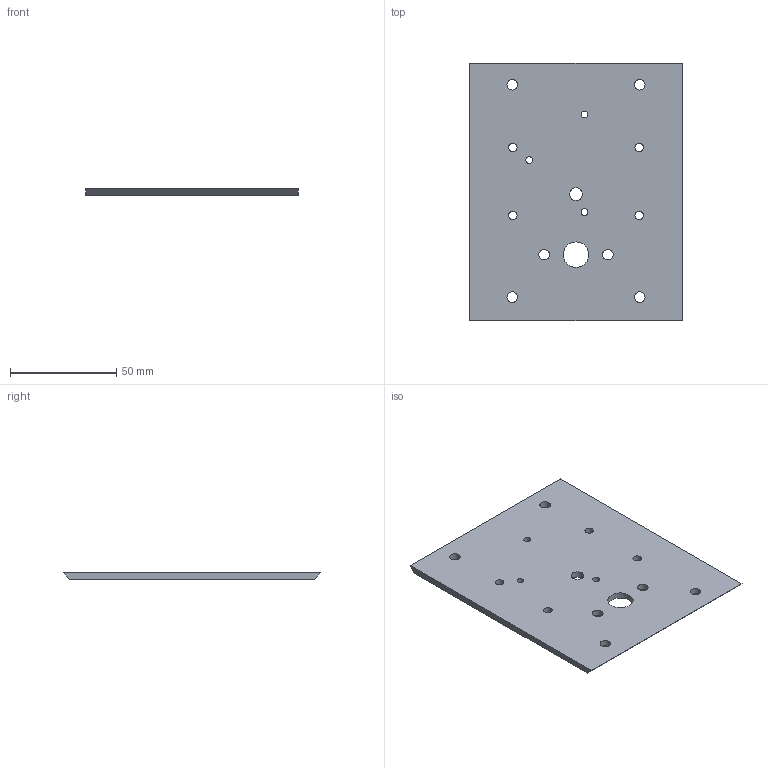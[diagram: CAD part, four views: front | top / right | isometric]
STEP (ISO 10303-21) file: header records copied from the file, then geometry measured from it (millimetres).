
FILE_DESCRIPTION(/* description */ ('STEP AP242','CAx-IF Rec.Pracs.---Representation and Presentation of Product Manufacturing Information (PMI)---4.0---2014-10-13','CAx-IF Rec.Pracs.---3D Tessellated Geometry---0.4---2014-09-14','2;1'),/* implementation_level */ '2;1');
FILE_NAME(/* name */ '04 - B plate - B plate',/* time_stamp */ '2024-12-03T19:58:33Z',/* author */ (''),/* organization */ (''),/* preprocessor_version */ 'ST-DEVELOPER v20',/* originating_system */ 'ONSHAPE BY PTC INC, 1.190',/* authorisation */ ' ');
FILE_SCHEMA (('AP242_MANAGED_MODEL_BASED_3D_ENGINEERING_MIM_LF { 1 0 10303 442 1 1 4 }'));
Length unit declared in the file: metre
Products named in the file (1): B plate
Bounding box: 100 x 121 x 3 mm (x, y, z)
Volume: 34399.3 mm3; surface area: 25183 mm2
Topology: 1 solids, 1 shells, 21 faces, 71 edges, 52 vertices
Faces by surface type: cylinder 15, plane 6
Full cylindrical faces by diameter (mm): 3.2 x3, 4 x4, 5 x6, 6 x1, 12 x1
Entity records: 688 total; most frequent: DIRECTION 116, CARTESIAN_POINT 102, ORIENTED_EDGE 84, EDGE_LOOP 66, FACE_BOUND 66, AXIS2_PLACEMENT_3D 52, EDGE_CURVE 42, VERTEX_POINT 38
